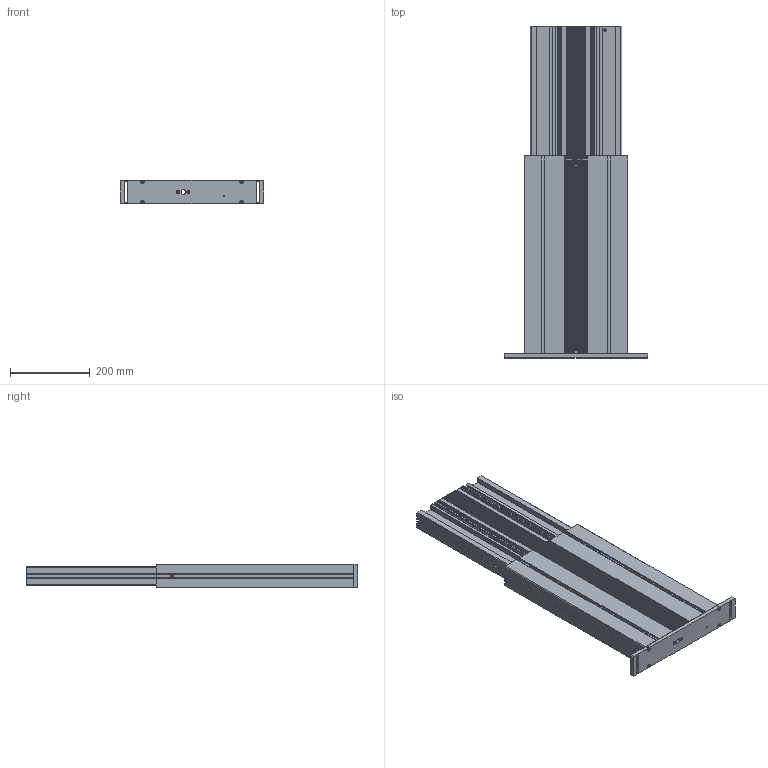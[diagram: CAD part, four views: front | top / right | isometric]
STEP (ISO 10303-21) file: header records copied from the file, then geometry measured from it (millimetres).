
FILE_DESCRIPTION (( 'STEP AP203' ), '1' );
FILE_NAME ('901.00003_ausgefahren.STEP', '2018-11-27T16:33:03', ( '' ), ( '' ), 'SwSTEP 2.0', 'SolidWorks 2015', '' );
FILE_SCHEMA (( 'CONFIG_CONTROL_DESIGN' ));
Length unit declared in the file: millimetre
Products named in the file (15): 119.00304; 126.00137; 142.00166; 119.00305; 142.00188; 901.00003_ausgefahren
Assembly tree (9 placements, depth 2):
  119.00304
  142.00166
  142.00188
  142.00188
  142.00166
Bounding box: 360 x 830 x 60 mm (x, y, z)
Volume: 3138647.6 mm3; surface area: 1666686.6 mm2
Topology: 9 solids, 9 shells, 2371 faces, 6987 edges, 4648 vertices
Faces by surface type: plane 1406, cylinder 935, bspline 16, cone 14
Entity records: 79221 total; most frequent: CARTESIAN_POINT 15619, ORIENTED_EDGE 13654, DIRECTION 12629, EDGE_CURVE 6827, VECTOR 4701, LINE 4701, VERTEX_POINT 4548, AXIS2_PLACEMENT_3D 3964
